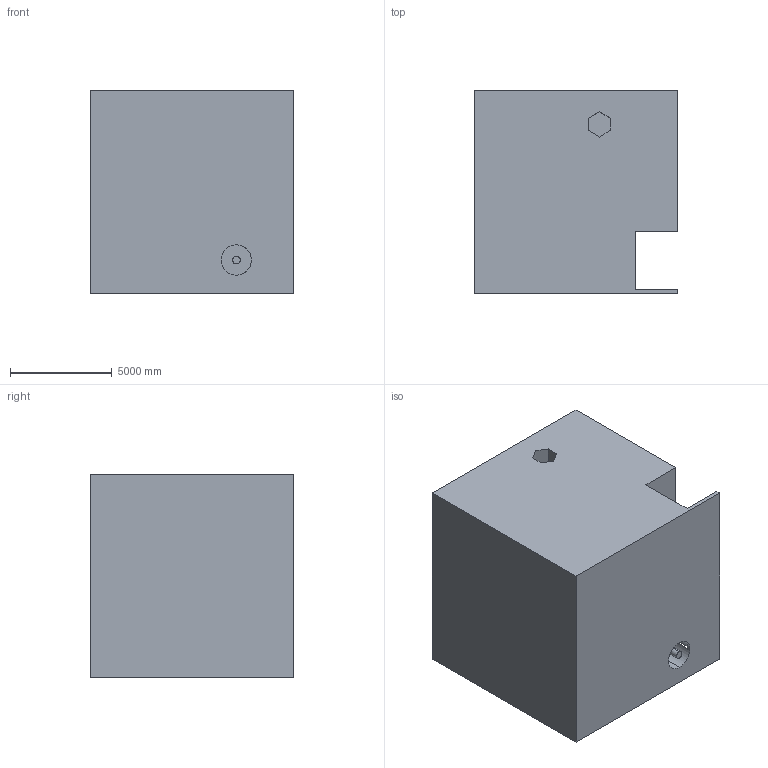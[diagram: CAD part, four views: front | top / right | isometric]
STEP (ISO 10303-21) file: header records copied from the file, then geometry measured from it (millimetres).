
FILE_DESCRIPTION (( 'STEP AP203' ), '1' );
FILE_NAME ('40.STEP', '2022-09-01T11:43:20', ( 'user' ), ( '' ), 'SwSTEP 2.0', 'SolidWorks 2021', '' );
FILE_SCHEMA (( 'CONFIG_CONTROL_DESIGN' ));
Length unit declared in the file: centimetre
Products named in the file (1): 40
Bounding box: 10000 x 10000 x 10000 mm (x, y, z)
Volume: 929539210939.2 mm3; surface area: 667145198.4 mm2
Topology: 1 solids, 1 shells, 33 faces, 90 edges, 60 vertices
Faces by surface type: plane 28, cylinder 5
Entity records: 1118 total; most frequent: CARTESIAN_POINT 184, ORIENTED_EDGE 180, DIRECTION 171, EDGE_CURVE 90, LINE 77, VECTOR 77, VERTEX_POINT 60, AXIS2_PLACEMENT_3D 47
